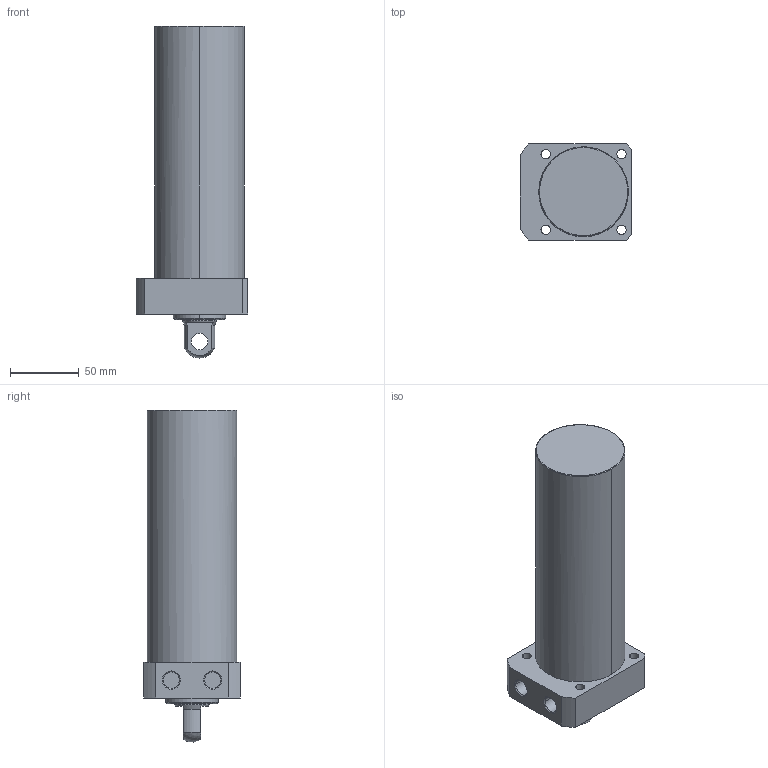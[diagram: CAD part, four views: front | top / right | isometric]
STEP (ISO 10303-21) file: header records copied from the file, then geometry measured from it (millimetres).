
FILE_DESCRIPTION((' '),'2;1');
FILE_NAME( 'TLLR-065CP-150.STEP.stp', '2025-10-24T16:35:05', (' '), ('--- Datakit www.datakit.com---'), ' Datakit CrossCadWare V2024.1 Dec 21 2023', 'Mastercam 2025', ' ');
FILE_SCHEMA(('AUTOMOTIVE_DESIGN { 1 0 10303 214 1 1 1 1 }'));
Length unit declared in the file: millimetre
Products named in the file (1): TLLR-065CP-150
Bounding box: 81 x 70 x 240.92 mm (x, y, z)
Volume: 754881 mm3; surface area: 61733.3 mm2
Topology: 1 solids, 1 shells, 57 faces, 164 edges, 116 vertices
Faces by surface type: cylinder 28, plane 18, cone 8, torus 2, sphere 1
Entity records: 2006 total; most frequent: DIRECTION 378, CARTESIAN_POINT 350, ORIENTED_EDGE 328, EDGE_CURVE 164, AXIS2_PLACEMENT_3D 160, VERTEX_POINT 116, CIRCLE 102, EDGE_LOOP 74
